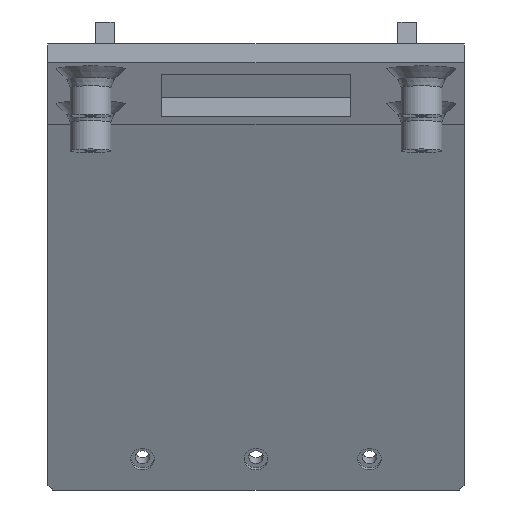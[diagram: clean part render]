
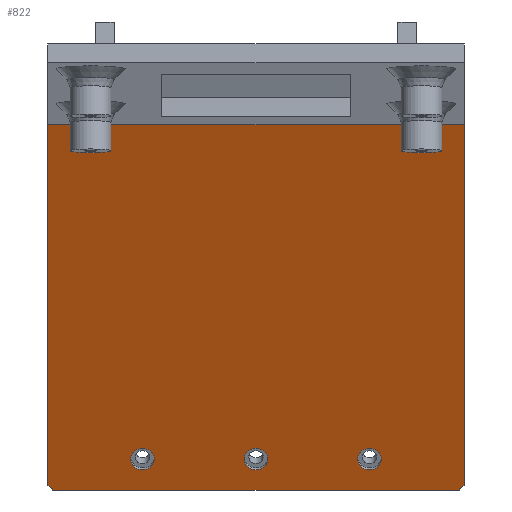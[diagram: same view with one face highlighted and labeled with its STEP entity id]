
A CAD part, top view. The second image highlights one B-rep face of the part: STEP entity #822.
In plain terms, the highlighted planar face has unit normal (0, -0.423, 0.906).
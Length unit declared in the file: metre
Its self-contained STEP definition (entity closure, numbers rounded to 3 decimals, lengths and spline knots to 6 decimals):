
#38=CIRCLE('',#897,0.00125);
#39=CIRCLE('',#898,0.00125);
#40=CIRCLE('',#899,0.00125);
#110=ORIENTED_EDGE('',*,*,#311,.F.);
#111=ORIENTED_EDGE('',*,*,#312,.F.);
#112=ORIENTED_EDGE('',*,*,#313,.F.);
#113=ORIENTED_EDGE('',*,*,#291,.F.);
#114=ORIENTED_EDGE('',*,*,#314,.T.);
#115=ORIENTED_EDGE('',*,*,#315,.T.);
#116=ORIENTED_EDGE('',*,*,#316,.T.);
#117=ORIENTED_EDGE('',*,*,#317,.T.);
#118=ORIENTED_EDGE('',*,*,#318,.F.);
#291=EDGE_CURVE('',#392,#394,#469,.T.);
#311=EDGE_CURVE('',#410,#410,#38,.T.);
#312=EDGE_CURVE('',#411,#411,#39,.T.);
#313=EDGE_CURVE('',#412,#412,#40,.T.);
#314=EDGE_CURVE('',#392,#413,#489,.T.);
#315=EDGE_CURVE('',#413,#414,#490,.F.);
#316=EDGE_CURVE('',#414,#415,#491,.T.);
#317=EDGE_CURVE('',#415,#416,#492,.T.);
#318=EDGE_CURVE('',#394,#416,#493,.T.);
#392=VERTEX_POINT('',#1272);
#394=VERTEX_POINT('',#1275);
#410=VERTEX_POINT('',#1313);
#411=VERTEX_POINT('',#1315);
#412=VERTEX_POINT('',#1317);
#413=VERTEX_POINT('',#1319);
#414=VERTEX_POINT('',#1321);
#415=VERTEX_POINT('',#1323);
#416=VERTEX_POINT('',#1325);
#469=LINE('',#1274,#535);
#489=LINE('',#1318,#555);
#490=LINE('',#1320,#556);
#491=LINE('',#1322,#557);
#492=LINE('',#1324,#558);
#493=LINE('',#1326,#559);
#535=VECTOR('',#1009,1.);
#555=VECTOR('',#1039,1.);
#556=VECTOR('',#1040,1.);
#557=VECTOR('',#1041,1.);
#558=VECTOR('',#1042,1.);
#559=VECTOR('',#1043,1.);
#597=EDGE_LOOP('',(#110));
#598=EDGE_LOOP('',(#111));
#599=EDGE_LOOP('',(#112));
#600=EDGE_LOOP('',(#113,#114,#115,#116,#117,#118));
#695=FACE_BOUND('',#597,.T.);
#696=FACE_BOUND('',#598,.T.);
#697=FACE_BOUND('',#599,.T.);
#698=FACE_BOUND('',#600,.T.);
#787=PLANE('',#896);
#822=ADVANCED_FACE('',(#695,#696,#697,#698),#787,.F.);
#896=AXIS2_PLACEMENT_3D('',#1311,#1031,#1032);
#897=AXIS2_PLACEMENT_3D('',#1312,#1033,#1034);
#898=AXIS2_PLACEMENT_3D('',#1314,#1035,#1036);
#899=AXIS2_PLACEMENT_3D('',#1316,#1037,#1038);
#1009=DIRECTION('',(1.,0.,0.));
#1031=DIRECTION('',(0.,0.423,-0.906));
#1032=DIRECTION('',(1.,0.,0.));
#1033=DIRECTION('',(0.,-0.423,0.906));
#1034=DIRECTION('',(0.,-0.906,-0.423));
#1035=DIRECTION('',(0.,-0.423,0.906));
#1036=DIRECTION('',(0.,-0.906,-0.423));
#1037=DIRECTION('',(0.,-0.423,0.906));
#1038=DIRECTION('',(0.,-0.906,-0.423));
#1039=DIRECTION('',(0.,-0.906,-0.423));
#1040=DIRECTION('',(-0.707,0.641,0.299));
#1041=DIRECTION('',(1.,0.,0.));
#1042=DIRECTION('',(0.707,0.641,0.299));
#1043=DIRECTION('',(0.,-0.906,-0.423));
#1272=CARTESIAN_POINT('',(-0.022,0.061023,0.009071));
#1274=CARTESIAN_POINT('',(0.,0.061023,0.009071));
#1275=CARTESIAN_POINT('',(0.022,0.061023,0.009071));
#1311=CARTESIAN_POINT('',(0.,0.049613,0.00375));
#1312=CARTESIAN_POINT('',(-0.012,0.025689,-0.007405));
#1313=CARTESIAN_POINT('',(-0.012,0.024556,-0.007934));
#1314=CARTESIAN_POINT('',(0.012,0.025689,-0.007405));
#1315=CARTESIAN_POINT('',(0.012,0.024556,-0.007934));
#1316=CARTESIAN_POINT('',(0.,0.025689,-0.007405));
#1317=CARTESIAN_POINT('',(0.,0.024556,-0.007934));
#1318=CARTESIAN_POINT('',(-0.022,0.049613,0.00375));
#1319=CARTESIAN_POINT('',(-0.022,0.022877,-0.008717));
#1320=CARTESIAN_POINT('',(-0.022,0.022877,-0.008717));
#1321=CARTESIAN_POINT('',(-0.0215,0.022423,-0.008928));
#1322=CARTESIAN_POINT('',(0.,0.022423,-0.008928));
#1323=CARTESIAN_POINT('',(0.0215,0.022423,-0.008928));
#1324=CARTESIAN_POINT('',(0.0215,0.022423,-0.008928));
#1325=CARTESIAN_POINT('',(0.022,0.022877,-0.008717));
#1326=CARTESIAN_POINT('',(0.022,0.049613,0.00375));
